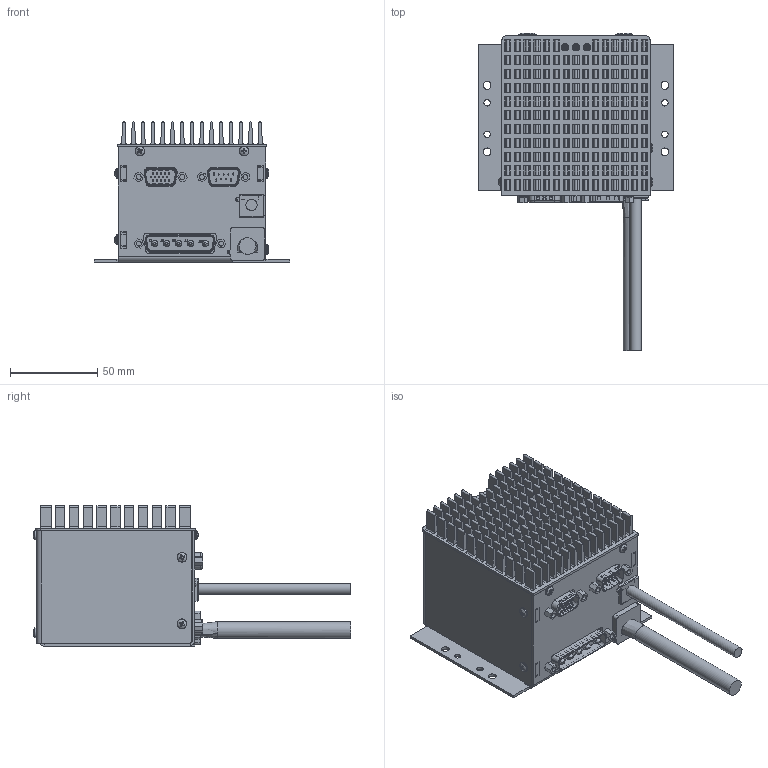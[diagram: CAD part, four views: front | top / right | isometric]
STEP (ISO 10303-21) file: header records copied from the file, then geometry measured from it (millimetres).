
FILE_DESCRIPTION(/* description */ ('Alibre Inc.'),/* implementation_level */ '2;1');
FILE_NAME(/* name */ 'export0',/* time_stamp */ '2017-08-14T10:55:41-07:00',/* author */ (''),/* organization */ (''),/* preprocessor_version */ 'ST-DEVELOPER v14',/* originating_system */ 'Alibre',/* authorisation */ '');
FILE_SCHEMA (('AUTOMOTIVE_DESIGN'));
Length unit declared in the file: inch
Products named in the file (21): 680M5W5103L401
Bounding box: 112.01 x 182.01 x 80.34 mm (x, y, z)
Volume: 149148.4 mm3; surface area: 137431 mm2
Topology: 38 solids, 58 shells, 3902 faces, 9830 edges, 6353 vertices
Faces by surface type: plane 2184, cylinder 1239, torus 164, cone 147, bspline 140, sphere 28
Full cylindrical faces by diameter (mm): 0.483 x3, 0.6 x17, 0.76 x45, 0.95 x15, 1.01 x15, 1.34 x15, 1.524 x2, 1.55 x15, 2 x2, 2.156 x7, 2.159 x2, 2.438 x4, 2.489 x6, 2.54 x3, 2.718 x3, 2.794 x10, 2.845 x1, 2.87 x6, 3.048 x8, 3.175 x10, 3.2 x2, 3.658 x4, 3.81 x3, 4 x2, 4.15 x2, 4.3 x2, 4.496 x4, 4.763 x2, 5.3 x2, 5.563 x10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
Entity records: 106499 total; most frequent: CARTESIAN_POINT 29705, ORIENTED_EDGE 17280, DIRECTION 12667, EDGE_CURVE 8640, VERTEX_POINT 5679, AXIS2_PLACEMENT_3D 5031, EDGE_LOOP 4115, FACE_BOUND 4115
